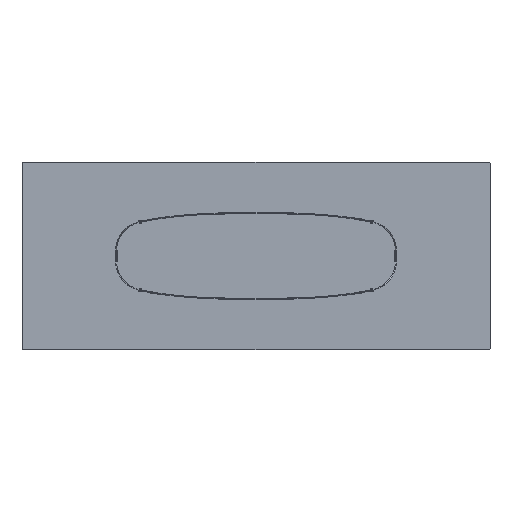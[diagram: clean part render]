
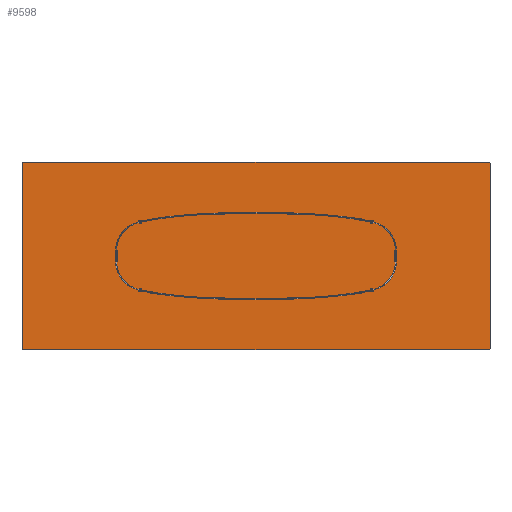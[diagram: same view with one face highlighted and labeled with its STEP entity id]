
A CAD part, front view. The second image highlights one B-rep face of the part: STEP entity #9598.
In plain terms, the highlighted planar face has unit normal (0, -1, 0).
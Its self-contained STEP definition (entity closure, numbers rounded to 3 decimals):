
#83 = CARTESIAN_POINT ( 'NONE',  ( 1495., 0., -600. ) ) ;
#298 = DIRECTION ( 'NONE',  ( 0., -1., 0. ) ) ;
#517 = EDGE_CURVE ( 'NONE', #13536, #9282, #4796, .T. ) ;
#535 = AXIS2_PLACEMENT_3D ( 'NONE', #6385, #11700, #13248 ) ;
#646 = LINE ( 'NONE', #5858, #13400 ) ;
#1042 = FACE_OUTER_BOUND ( 'NONE', #3196, .T. ) ;
#1090 = AXIS2_PLACEMENT_3D ( 'NONE', #7037, #298, #14896 ) ;
#1418 = ORIENTED_EDGE ( 'NONE', *, *, #3549, .T. ) ;
#1768 = CARTESIAN_POINT ( 'NONE',  ( -1500., 0., -600. ) ) ;
#2043 = LINE ( 'NONE', #12286, #3249 ) ;
#2848 = AXIS2_PLACEMENT_3D ( 'NONE', #10365, #8910, #6237 ) ;
#3196 = EDGE_LOOP ( 'NONE', ( #5794, #10786, #5608, #3540, #4781, #14822, #8406, #1418 ) ) ;
#3249 = VECTOR ( 'NONE', #8362, 1000. ) ;
#3460 = DIRECTION ( 'NONE',  ( 0., 0., -1. ) ) ;
#3540 = ORIENTED_EDGE ( 'NONE', *, *, #517, .T. ) ;
#3549 = EDGE_CURVE ( 'NONE', #3662, #9121, #4880, .T. ) ;
#3662 = VERTEX_POINT ( 'NONE', #83 ) ;
#3828 = CARTESIAN_POINT ( 'NONE',  ( -1500., 0., 600. ) ) ;
#4004 = VECTOR ( 'NONE', #12186, 1000. ) ;
#4304 = EDGE_CURVE ( 'NONE', #13655, #13552, #10366, .T. ) ;
#4781 = ORIENTED_EDGE ( 'NONE', *, *, #10153, .F. ) ;
#4796 = CIRCLE ( 'NONE', #16822, 5. ) ;
#4880 = CIRCLE ( 'NONE', #535, 5. ) ;
#5306 = VERTEX_POINT ( 'NONE', #6929 ) ;
#5335 = CARTESIAN_POINT ( 'NONE',  ( -1495., 0., -600. ) ) ;
#5608 = ORIENTED_EDGE ( 'NONE', *, *, #11013, .F. ) ;
#5761 = EDGE_CURVE ( 'NONE', #5306, #6091, #11746, .T. ) ;
#5794 = ORIENTED_EDGE ( 'NONE', *, *, #16070, .F. ) ;
#5858 = CARTESIAN_POINT ( 'NONE',  ( 1500., 0., -600. ) ) ;
#6091 = VERTEX_POINT ( 'NONE', #6992 ) ;
#6237 = DIRECTION ( 'NONE',  ( 0., 0., 1. ) ) ;
#6385 = CARTESIAN_POINT ( 'NONE',  ( 1495., 0., -595. ) ) ;
#6392 = DIRECTION ( 'NONE',  ( 1., 0., 0. ) ) ;
#6473 = VECTOR ( 'NONE', #6392, 1000. ) ;
#6708 = CARTESIAN_POINT ( 'NONE',  ( -1495., 0., 600. ) ) ;
#6929 = CARTESIAN_POINT ( 'NONE',  ( 1500., 0., 595. ) ) ;
#6969 = CARTESIAN_POINT ( 'NONE',  ( -1495., 0., -595. ) ) ;
#6971 = EDGE_CURVE ( 'NONE', #3662, #13552, #2043, .T. ) ;
#6992 = CARTESIAN_POINT ( 'NONE',  ( 1495., 0., 600. ) ) ;
#7037 = CARTESIAN_POINT ( 'NONE',  ( 1495., 0., 595. ) ) ;
#7619 = PLANE ( 'NONE',  #2848 ) ;
#8258 = LINE ( 'NONE', #1768, #4004 ) ;
#8362 = DIRECTION ( 'NONE',  ( -1., 0., 0. ) ) ;
#8406 = ORIENTED_EDGE ( 'NONE', *, *, #6971, .F. ) ;
#8910 = DIRECTION ( 'NONE',  ( 0., 1., 0. ) ) ;
#9061 = CARTESIAN_POINT ( 'NONE',  ( -1495., 0., 595. ) ) ;
#9121 = VERTEX_POINT ( 'NONE', #14742 ) ;
#9282 = VERTEX_POINT ( 'NONE', #15790 ) ;
#9319 = DIRECTION ( 'NONE',  ( 0., -1., 0. ) ) ;
#9598 = ADVANCED_FACE ( 'NONE', ( #1042 ), #7619, .F. ) ;
#10153 = EDGE_CURVE ( 'NONE', #13655, #9282, #8258, .T. ) ;
#10365 = CARTESIAN_POINT ( 'NONE',  ( 0., 0., 0. ) ) ;
#10366 = CIRCLE ( 'NONE', #14720, 5. ) ;
#10682 = DIRECTION ( 'NONE',  ( 0., 0., 1. ) ) ;
#10786 = ORIENTED_EDGE ( 'NONE', *, *, #5761, .T. ) ;
#11013 = EDGE_CURVE ( 'NONE', #13536, #6091, #14175, .T. ) ;
#11700 = DIRECTION ( 'NONE',  ( 0., -1., 0. ) ) ;
#11746 = CIRCLE ( 'NONE', #1090, 5. ) ;
#12074 = CARTESIAN_POINT ( 'NONE',  ( -1500., 0., -595. ) ) ;
#12186 = DIRECTION ( 'NONE',  ( 0., 0., 1. ) ) ;
#12286 = CARTESIAN_POINT ( 'NONE',  ( -1500., 0., -600. ) ) ;
#13248 = DIRECTION ( 'NONE',  ( 0., 0., 1. ) ) ;
#13322 = DIRECTION ( 'NONE',  ( 0., 0., 1. ) ) ;
#13400 = VECTOR ( 'NONE', #3460, 1000. ) ;
#13536 = VERTEX_POINT ( 'NONE', #6708 ) ;
#13552 = VERTEX_POINT ( 'NONE', #5335 ) ;
#13647 = DIRECTION ( 'NONE',  ( 0., -1., 0. ) ) ;
#13655 = VERTEX_POINT ( 'NONE', #12074 ) ;
#14175 = LINE ( 'NONE', #3828, #6473 ) ;
#14720 = AXIS2_PLACEMENT_3D ( 'NONE', #6969, #13647, #13322 ) ;
#14742 = CARTESIAN_POINT ( 'NONE',  ( 1500., 0., -595. ) ) ;
#14822 = ORIENTED_EDGE ( 'NONE', *, *, #4304, .T. ) ;
#14896 = DIRECTION ( 'NONE',  ( 0., 0., 1. ) ) ;
#15790 = CARTESIAN_POINT ( 'NONE',  ( -1500., 0., 595. ) ) ;
#16070 = EDGE_CURVE ( 'NONE', #5306, #9121, #646, .T. ) ;
#16822 = AXIS2_PLACEMENT_3D ( 'NONE', #9061, #9319, #10682 ) ;
